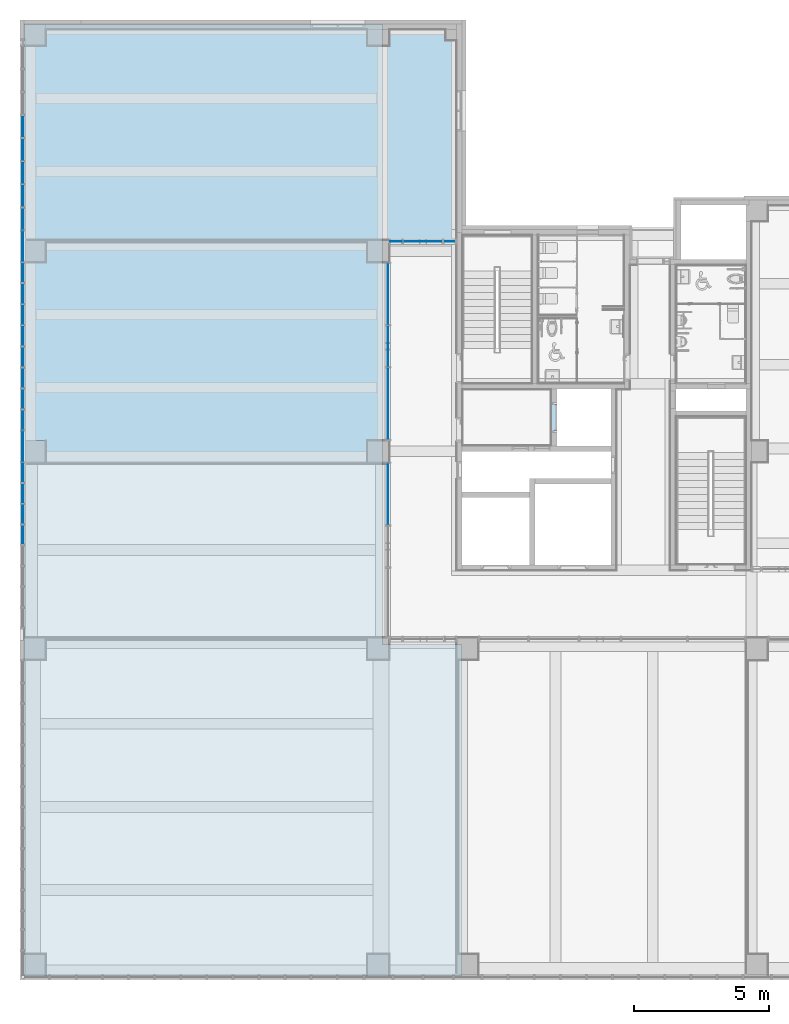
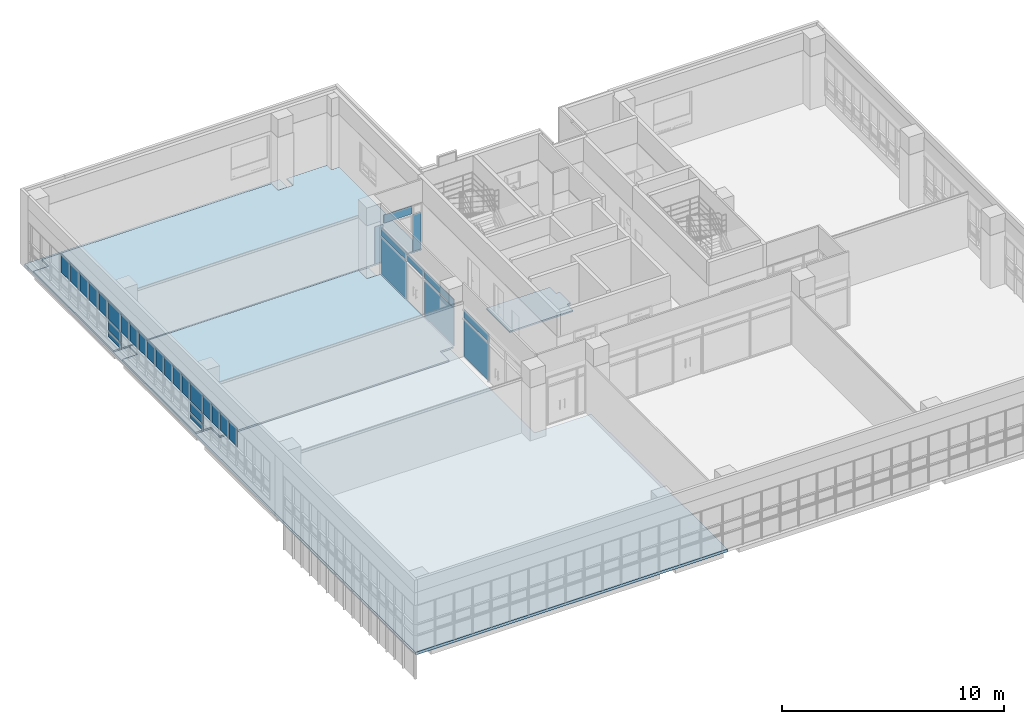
# One storey, part 28 of 81: 33 plates, 4 slabs, 4 elements without a shape of their own.
"""IFC2X3 building model written with IfcOpenShell, lengths in millimetres."""

import ifcopenshell
import ifcopenshell.guid

model = None  # the IFC model being written
_history = None  # IfcOwnerHistory: only IFC2X3 demands one
_inside = {}  # id of a spatial element -> (the spatial element, [elements in it])
_under = {}  # id of a project, library or spatial element -> (it, [spatial elements below it])
_declared = {}  # id of a project -> (the project, [libraries it declares])
_typed = {}  # id of a type object -> (the type object, [elements of that type])
_made_of = {}  # id of a material, layer set ... -> (it, [elements and type objects made of it])


def new_model(schema):
    """Start an empty IFC model of exactly this schema.

    Asked for "IFC4X3", IfcOpenShell would pick the latest addendum, in which some entities
    have other attributes; the version numbers below select the first issue.
    IFC2X3 requires an IfcOwnerHistory on every rooted entity: one is made here for all.
    """
    global model, _history
    if schema == "IFC4X3":
        model = ifcopenshell.file(schema_version=(4, 3, 0, 0))
    else:
        model = ifcopenshell.file(schema=schema)
    _inside.clear()
    _under.clear()
    _declared.clear()
    _typed.clear()
    _made_of.clear()
    _history = None
    if model.schema == "IFC2X3":
        org = make("IfcOrganization", Name="unknown")
        user = make(
            "IfcPersonAndOrganization",
            ThePerson=make("IfcPerson", FamilyName="unknown"),
            TheOrganization=org,
        )
        app = make(
            "IfcApplication",
            ApplicationDeveloper=org,
            Version="unknown",
            ApplicationFullName="unknown",
            ApplicationIdentifier="unknown",
        )
        _history = make(
            "IfcOwnerHistory",
            OwningUser=user,
            OwningApplication=app,
            ChangeAction="ADDED",
            CreationDate=0,
        )
    return model


def make(cls, **values):
    """One entity of the class cls with the attributes given. An attribute that is None is left unset."""
    return model.create_entity(
        cls, **{name: value for name, value in values.items() if value is not None}
    )


def entity(cls, *values):
    """Any entity or typed value of the class cls, its attributes in the order of the schema. None: left unset."""
    e = model.create_entity(cls)
    for i, value in enumerate(values):
        if value is not None:
            e[i] = value
    return e


def rooted(cls, **values):
    """An entity with a GlobalId (a new one), such as an element, a storey or a relation."""
    return make(cls, GlobalId=ifcopenshell.guid.new(), OwnerHistory=_history, **values)


def si_unit(unit_type, name, prefix=None):
    """IfcSIUnit, for example si_unit("LENGTHUNIT", "METRE", prefix="MILLI")."""
    return make("IfcSIUnit", UnitType=unit_type, Prefix=prefix, Name=name)


def converted_unit(unit_type, name, factor, base, dimensions=None, offset=None):
    """IfcConversionBasedUnit, such as the inch: factor (a typed value) times the base unit."""
    return make(
        "IfcConversionBasedUnit"
        if offset is None
        else "IfcConversionBasedUnitWithOffset",
        ConversionOffset=offset,
        Dimensions=None
        if dimensions is None
        else entity("IfcDimensionalExponents", *dimensions),
        UnitType=unit_type,
        Name=name,
        ConversionFactor=make(
            "IfcMeasureWithUnit", ValueComponent=factor, UnitComponent=base
        ),
    )


def derived_unit(unit_type, elements):
    """IfcDerivedUnit: a product of units, each with its exponent."""
    return make(
        "IfcDerivedUnit",
        Elements=[
            make("IfcDerivedUnitElement", Unit=unit, Exponent=power)
            for unit, power in elements
        ],
        UnitType=unit_type,
    )


def assignment(units):
    """IfcUnitAssignment: the units of a project."""
    return None if units is None else make("IfcUnitAssignment", Units=units)


def point(xyz):
    """IfcCartesianPoint."""
    return None if xyz is None else make("IfcCartesianPoint", Coordinates=xyz)


def direction(xyz):
    """IfcDirection."""
    return None if xyz is None else make("IfcDirection", DirectionRatios=xyz)


def frame(location, z_axis=None, x_axis=None):
    """IfcAxis2Placement3D, a coordinate frame: its origin and axes. An axis left out is left unset."""
    return make(
        "IfcAxis2Placement3D",
        Location=point(location),
        Axis=direction(z_axis),
        RefDirection=direction(x_axis),
    )


def frame_2d(location, x_axis=None):
    """IfcAxis2Placement2D, a coordinate frame in the plane: its origin and x axis."""
    return make(
        "IfcAxis2Placement2D", Location=point(location), RefDirection=direction(x_axis)
    )


def origin():
    """The frame at (0, 0, 0) with its axes left unset."""
    return frame((0.0, 0.0, 0.0))


def origin_2d_with_axis():
    """The frame at (0, 0) in the plane with the x axis (1, 0) written out."""
    return frame_2d((0.0, 0.0), x_axis=(1.0, 0.0))


def place(relative_to, where):
    """IfcLocalPlacement: puts the frame where relative to a parent placement (None: the world)."""
    return make(
        "IfcLocalPlacement", PlacementRelTo=relative_to, RelativePlacement=where
    )


def context(
    kind, dimensions, precision=None, world=None, true_north=None, identifier=None
):
    """IfcGeometricRepresentationContext, for example the 3D "Model" context."""
    return make(
        "IfcGeometricRepresentationContext",
        ContextIdentifier=identifier,
        ContextType=kind,
        CoordinateSpaceDimension=dimensions,
        Precision=precision,
        WorldCoordinateSystem=world,
        TrueNorth=true_north,
    )


def subcontext(parent, identifier, kind, view, scale=None):
    """IfcGeometricRepresentationSubContext, for example "Body" below "Model"."""
    return make(
        "IfcGeometricRepresentationSubContext",
        ContextIdentifier=identifier,
        ContextType=kind,
        ParentContext=parent,
        TargetScale=scale,
        TargetView=view,
    )


def project(units=None, contexts=None):
    """IfcProject with its units and contexts."""
    return rooted(
        "IfcProject",
        Name="project",
        RepresentationContexts=contexts,
        UnitsInContext=assignment(units),
    )


def spatial(cls, under=None, at=None, **own):
    """A site, building, storey or space (cls), placed at a placement, below another one or the project."""
    s = rooted(cls, ObjectPlacement=at, **own)
    if under is not None:
        _under.setdefault(under.id(), (under, []))[1].append(s)
    return s


def polyline(points):
    """IfcPolyline through the points."""
    return make("IfcPolyline", Points=[point(p) for p in points])


def profile(cls, at=None, kind="AREA", **sizes):
    """A parametric profile (cls). Its sizes go by their IFC names, for example OverallWidth=200.0."""
    return make(cls, ProfileType=kind, Position=at, **sizes)


def rectangle(**sizes):
    """IfcRectangleProfileDef."""
    return profile("IfcRectangleProfileDef", **sizes)


def outline(outer, holes=None, kind="AREA"):
    """IfcArbitraryClosedProfileDef: a profile drawn as a closed curve; with holes, ...WithVoids."""
    if holes is None:
        return make("IfcArbitraryClosedProfileDef", ProfileType=kind, OuterCurve=outer)
    return make(
        "IfcArbitraryProfileDefWithVoids",
        ProfileType=kind,
        OuterCurve=outer,
        InnerCurves=holes,
    )


def extrude(swept, where, along, depth):
    """IfcExtrudedAreaSolid: the profile swept, set in the frame where, extruded along a direction by depth."""
    return make(
        "IfcExtrudedAreaSolid",
        SweptArea=swept,
        Position=where,
        ExtrudedDirection=direction(along),
        Depth=depth,
    )


def shape(context_of_items, identifier, shape_type, items):
    """IfcShapeRepresentation: the items that make up one representation, for example the "Body"."""
    return make(
        "IfcShapeRepresentation",
        ContextOfItems=context_of_items,
        RepresentationIdentifier=identifier,
        RepresentationType=shape_type,
        Items=items,
    )


def source(mapping_origin, context_of_items, identifier, shape_type, items):
    """IfcRepresentationMap: a shape defined once, which mapped items show again and again."""
    return make(
        "IfcRepresentationMap",
        MappingOrigin=mapping_origin,
        MappedRepresentation=shape(context_of_items, identifier, shape_type, items),
    )


def transform(
    local_origin,
    x_axis=None,
    y_axis=None,
    z_axis=None,
    scale=None,
    scale2=None,
    scale3=None,
    uniform=True,
):
    """IfcCartesianTransformationOperator3D, or its non-uniform kind. x_axis, y_axis, z_axis: its Axis1, 2, 3."""
    if uniform:
        return make(
            "IfcCartesianTransformationOperator3D",
            Axis1=direction(x_axis),
            Axis2=direction(y_axis),
            LocalOrigin=point(local_origin),
            Scale=scale,
            Axis3=direction(z_axis),
        )
    return make(
        "IfcCartesianTransformationOperator3DnonUniform",
        Axis1=direction(x_axis),
        Axis2=direction(y_axis),
        LocalOrigin=point(local_origin),
        Scale=scale,
        Axis3=direction(z_axis),
        Scale2=scale2,
        Scale3=scale3,
    )


def mapped(mapping_source, mapping_target):
    """IfcMappedItem: shows the shape of a source again, moved by a transform."""
    return make(
        "IfcMappedItem", MappingSource=mapping_source, MappingTarget=mapping_target
    )


def material(Name=None, Category=None):
    """IfcMaterial."""
    return make("IfcMaterial", Name=Name, Category=Category)


def layer(
    of_material, thickness, ventilated=None, Name=None, Category=None, Priority=None
):
    """IfcMaterialLayer: one layer of a wall or slab, of a material (None: an air gap)."""
    return make(
        "IfcMaterialLayer",
        Material=of_material,
        LayerThickness=thickness,
        IsVentilated=ventilated,
        Name=Name,
        Category=Category,
        Priority=Priority,
    )


def layer_set(layers, Name=None):
    """IfcMaterialLayerSet."""
    return make("IfcMaterialLayerSet", MaterialLayers=layers, LayerSetName=Name)


def layer_usage(for_layer_set, set_direction, sense, offset, extent=None):
    """IfcMaterialLayerSetUsage: how a layer set lies in its element."""
    return make(
        "IfcMaterialLayerSetUsage",
        ForLayerSet=for_layer_set,
        LayerSetDirection=set_direction,
        DirectionSense=sense,
        OffsetFromReferenceLine=offset,
        ReferenceExtent=extent,
    )


def made_of(thing, what):
    """Note that an element or type object is made of a material, layer set ...; save() writes the relation."""
    if what is not None:
        _made_of.setdefault(what.id(), (what, []))[1].append(thing)
    return thing


def type_object(cls, material=None, **own):
    """A type object (cls), such as IfcWallType, which elements share."""
    return made_of(rooted(cls, **own), material)


def type_shapes(of_type, sources):
    """Give a type object the sources (RepresentationMaps) that its elements show as mapped items."""
    of_type.RepresentationMaps = sources


def element(
    cls,
    number,
    at=None,
    inside=None,
    cuts=None,
    type_object=None,
    material=None,
    context=None,
    identifier="Body",
    shape_type=None,
    held_by="IfcProductDefinitionShape",
    body=None,
    shapes=None,
    **own,
):
    """One element of the class cls, such as IfcWall. Its Tag is "e" and its number.

    at: its placement. inside: the storey or other place that contains it. cuts: it is an
    opening in that element (IfcRelVoidsElement). A single representation is given by context,
    identifier, shape_type and body (its items); several are given by shapes. held_by: the class
    of the entity that holds the representations. save() writes the other relations.
    """
    e = rooted(cls, Tag="e%d" % number, ObjectPlacement=at, **own)
    if body is not None:
        shapes = [shape(context, identifier, shape_type, body)]
    if shapes is not None:
        e.Representation = make(held_by, Representations=shapes)
    if inside is not None:
        _inside.setdefault(inside.id(), (inside, []))[1].append(e)
    if cuts is not None:
        rooted(
            "IfcRelVoidsElement", RelatingBuildingElement=cuts, RelatedOpeningElement=e
        )
    if type_object is not None:
        _typed.setdefault(type_object.id(), (type_object, []))[1].append(e)
    return made_of(e, material)


def aggregate(whole, parts):
    """IfcRelAggregates: a whole, such as a stair, and the parts it consists of."""
    return rooted("IfcRelAggregates", RelatingObject=whole, RelatedObjects=parts)


def save(model, path):
    """Write the relations noted so far, then the file.

    IfcRelAggregates (storeys below a building ...), IfcRelContainedInSpatialStructure (elements
    in a storey), IfcRelDefinesByType, IfcRelAssociatesMaterial and IfcRelDeclares: one each for
    every whole, place, type object, material and project.
    """
    for whole, parts in _under.values():
        aggregate(whole, parts)
    for where, things in _inside.values():
        rooted(
            "IfcRelContainedInSpatialStructure",
            RelatedElements=things,
            RelatingStructure=where,
        )
    for kind, things in _typed.values():
        rooted("IfcRelDefinesByType", RelatedObjects=things, RelatingType=kind)
    for what, things in _made_of.values():
        rooted("IfcRelAssociatesMaterial", RelatedObjects=things, RelatingMaterial=what)
    for by, libraries in _declared.values():
        rooted("IfcRelDeclares", RelatingContext=by, RelatedDefinitions=libraries)
    model.write(path)


model = new_model("IFC2X3")

# Units and contexts
model_context = context("Model", 3, precision=0.01, world=origin(), true_north=direction((6.123031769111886e-17, 1.0)))
body_context = subcontext(model_context, "Body", "Model", "MODEL_VIEW")
ifc_project = project(units=[si_unit("LENGTHUNIT", "METRE", prefix="MILLI"), si_unit("AREAUNIT", "SQUARE_METRE"), si_unit("VOLUMEUNIT", "CUBIC_METRE"), converted_unit("PLANEANGLEUNIT", "DEGREE", entity("IfcRatioMeasure", 0.017453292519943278), si_unit("PLANEANGLEUNIT", "RADIAN"), dimensions=[0, 0, 0, 0, 0, 0, 0]), si_unit("MASSUNIT", "GRAM", prefix="KILO"), derived_unit("MASSDENSITYUNIT", [(si_unit("MASSUNIT", "GRAM", prefix="KILO"), 1), (si_unit("LENGTHUNIT", "METRE"), -3)]), derived_unit("MOMENTOFINERTIAUNIT", [(si_unit("LENGTHUNIT", "METRE"), 4)]), si_unit("TIMEUNIT", "SECOND"), si_unit("FREQUENCYUNIT", "HERTZ"), si_unit("THERMODYNAMICTEMPERATUREUNIT", "DEGREE_CELSIUS"), derived_unit("THERMALTRANSMITTANCEUNIT", [(si_unit("MASSUNIT", "GRAM", prefix="KILO"), 1), (si_unit("THERMODYNAMICTEMPERATUREUNIT", "KELVIN"), -1), (si_unit("TIMEUNIT", "SECOND"), -3)]), derived_unit("VOLUMETRICFLOWRATEUNIT", [(si_unit("LENGTHUNIT", "METRE"), 3), (si_unit("TIMEUNIT", "SECOND"), -1)]), derived_unit("MASSFLOWRATEUNIT", [(si_unit("MASSUNIT", "GRAM", prefix="KILO"), 1), (si_unit("TIMEUNIT", "SECOND"), -1)]), derived_unit("ROTATIONALFREQUENCYUNIT", [(si_unit("TIMEUNIT", "SECOND"), -1)]), si_unit("ELECTRICCURRENTUNIT", "AMPERE"), si_unit("ELECTRICVOLTAGEUNIT", "VOLT"), si_unit("POWERUNIT", "WATT"), si_unit("FORCEUNIT", "NEWTON", prefix="KILO"), si_unit("ILLUMINANCEUNIT", "LUX"), si_unit("LUMINOUSFLUXUNIT", "LUMEN"), si_unit("LUMINOUSINTENSITYUNIT", "CANDELA"), derived_unit("USERDEFINED", [(si_unit("MASSUNIT", "GRAM", prefix="KILO"), -1), (si_unit("LENGTHUNIT", "METRE"), -2), (si_unit("TIMEUNIT", "SECOND"), 3), (si_unit("LUMINOUSFLUXUNIT", "LUMEN"), 1)]), derived_unit("SOUNDPOWERUNIT", [(si_unit("MASSUNIT", "GRAM", prefix="KILO"), 1), (si_unit("LENGTHUNIT", "METRE"), 2), (si_unit("TIMEUNIT", "SECOND"), -3)]), derived_unit("SOUNDPRESSUREUNIT", [(si_unit("MASSUNIT", "GRAM", prefix="KILO"), 1), (si_unit("LENGTHUNIT", "METRE"), -1), (si_unit("TIMEUNIT", "SECOND"), -2)]), derived_unit("LINEARVELOCITYUNIT", [(si_unit("LENGTHUNIT", "METRE"), 1), (si_unit("TIMEUNIT", "SECOND"), -1)]), si_unit("PRESSUREUNIT", "PASCAL"), derived_unit("USERDEFINED", [(si_unit("LENGTHUNIT", "METRE"), -2), (si_unit("MASSUNIT", "GRAM", prefix="KILO"), 1), (si_unit("TIMEUNIT", "SECOND"), -2)]), derived_unit("LINEARFORCEUNIT", [(si_unit("MASSUNIT", "GRAM", prefix="KILO"), 1), (si_unit("LENGTHUNIT", "METRE"), 1), (si_unit("TIMEUNIT", "SECOND"), -2), (si_unit("LENGTHUNIT", "METRE"), -1)]), derived_unit("PLANARFORCEUNIT", [(si_unit("MASSUNIT", "GRAM", prefix="KILO"), 1), (si_unit("LENGTHUNIT", "METRE"), 1), (si_unit("TIMEUNIT", "SECOND"), -2), (si_unit("LENGTHUNIT", "METRE"), -2)])], contexts=[model_context])

# Site, building, storey
site_placement = place(None, frame((-14167.972527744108, -657.2125860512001, 0.0)))
site = spatial("IfcSite", under=ifc_project, at=site_placement, Name="Default", CompositionType="ELEMENT")
building_placement = place(site_placement, origin())
building = spatial("IfcBuilding", under=site, at=building_placement, Name="Sample Building", CompositionType="ELEMENT")
storey_placement = place(building_placement, frame((0.0, 0.0, 13400.0)))
storey = spatial("IfcBuildingStorey", under=building, at=storey_placement, Name="지상 4층", CompositionType="ELEMENT", Elevation=13400.00000000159)

# Slab
ifc_material_1 = material(Name="KBIMS-콘크리트")
ifc_layer_1 = layer(ifc_material_1, 150.0)
ifc_layer_set_1 = layer_set([ifc_layer_1], Name="바닥:SL111-철근콘크리트구조 바닥 150mm_S1")
ifc_layer_usage_1 = layer_usage(ifc_layer_set_1, "AXIS3", "POSITIVE", 0.0)
slab_type_1 = type_object("IfcSlabType", Name="바닥:SL111-철근콘크리트구조 바닥 150mm_S1", PredefinedType="FLOOR", material=ifc_layer_set_1)
slab_1_placement = place(storey_placement, origin())
element("IfcSlab", 1, at=slab_1_placement, inside=storey, type_object=slab_type_1, material=ifc_layer_usage_1, Name="바닥:SL111-철근콘크리트구조 바닥 150mm_S1", ObjectType="바닥:SL111-철근콘크리트구조 바닥 150mm_S1", PredefinedType="FLOOR", context=body_context, shape_type="SweptSolid", body=[
    extrude(outline(polyline([(-15816.666733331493, -9816.694598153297), (19383.333366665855, -9816.694598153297), (19383.333366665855, 3433.331560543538), (-3566.666633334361, 3433.3315605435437), (-3566.6666333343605, 6383.314094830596), (-15816.666733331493, 6383.314094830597), (-15816.666733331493, -9816.694598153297)])), frame((23884.649703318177, 16373.878928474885, 0.0), z_axis=(0.0, 0.0, -1.0), x_axis=(0.0, 1.0, 0.0)), (0.0, 0.0, 1.0), 150.00000000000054),
])

# Curtain wall, plates
curtain_wall_type = type_object("IfcCurtainWallType", Name="커튼월:CW112-스테인리스 스틸 커튼월", PredefinedType="NOTDEFINED")
curtain_wall_1_placement = place(storey_placement, frame((0.0, 0.0, -13400.0)))
curtain_wall_1 = element("IfcCurtainWall", 2, at=curtain_wall_1_placement, inside=storey, type_object=curtain_wall_type, Name="커튼월:CW112-스테인리스 스틸 커튼월", ObjectType="커튼월:CW112-스테인리스 스틸 커튼월")
ifc_material_2 = material(Name="KBIMS-로이유리(코팅)")
plate_type_1 = type_object("IfcPlateType", Name="CW300-THK24.Low-e coating glass:CW300-THK24.Low-e coating glass", PredefinedType="CURTAIN_PANEL", material=ifc_material_2)
shared_shape_1 = source(origin(), body_context, "Body", "SweptSolid", [
    extrude(rectangle(XDim=2265.0000000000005, YDim=24.000000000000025, at=origin_2d_with_axis()), frame((0.0, 0.0, 0.0), z_axis=(0.0, 0.0, 1.0), x_axis=(-1.0, 0.0, 0.0)), (0.0, 0.0, 1.0), 445.00000000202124),
])
type_shapes(plate_type_1, [shared_shape_1])
plate_1_placement = place(curtain_wall_1_placement, frame((27523.086972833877, 25774.712307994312, 15605.0), z_axis=(0.0, 0.0, 1.0), x_axis=(0.0, -1.0, 0.0)))
plate_1 = element("IfcPlate", 3, at=plate_1_placement, type_object=plate_type_1, material=ifc_material_2, Name="CW300-THK24.Low-e coating glass:CW300-THK24.Low-e coating glass", ObjectType="CW300-THK24.Low-e coating glass:CW300-THK24.Low-e coating glass", context=body_context, shape_type="MappedRepresentation", body=[
    mapped(shared_shape_1, transform((0.0, 0.0, 0.0), scale=1.0)),
])
plate_type_2 = type_object("IfcPlateType", Name="CW300-THK24.Low-e coating glass:CW300-THK24.Low-e coating glass", PredefinedType="CURTAIN_PANEL", material=ifc_material_2)
shared_shape_2 = source(origin(), body_context, "Body", "SweptSolid", [
    extrude(rectangle(XDim=1500.0000000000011, YDim=24.000000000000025, at=origin_2d_with_axis()), frame((0.0, 0.0, 0.0), z_axis=(0.0, 0.0, 1.0), x_axis=(-1.0, 0.0, 0.0)), (0.0, 0.0, 1.0), 445.00000000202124),
])
type_shapes(plate_type_2, [shared_shape_2])
plate_2_placement = place(curtain_wall_1_placement, frame((27523.086972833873, 23842.21230799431, 15605.0), z_axis=(0.0, 0.0, 1.0), x_axis=(0.0, -1.0, 0.0)))
plate_2 = element("IfcPlate", 4, at=plate_2_placement, type_object=plate_type_2, material=ifc_material_2, Name="CW300-THK24.Low-e coating glass:CW300-THK24.Low-e coating glass", ObjectType="CW300-THK24.Low-e coating glass:CW300-THK24.Low-e coating glass", context=body_context, shape_type="MappedRepresentation", body=[
    mapped(shared_shape_2, transform((0.0, 0.0, 0.0), scale=1.0)),
])
plate_type_3 = type_object("IfcPlateType", Name="CW300-THK24.Low-e coating glass:CW300-THK24.Low-e coating glass", PredefinedType="CURTAIN_PANEL", material=ifc_material_2)
shared_shape_3 = source(origin(), body_context, "Body", "SweptSolid", [
    extrude(rectangle(XDim=2634.9999999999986, YDim=24.000000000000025, at=origin_2d_with_axis()), frame((0.0, 0.0, 0.0), z_axis=(0.0, 0.0, 1.0), x_axis=(-1.0, 0.0, 0.0)), (0.0, 0.0, 1.0), 445.00000000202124),
])
type_shapes(plate_type_3, [shared_shape_3])
plate_3_placement = place(curtain_wall_1_placement, frame((27523.08697283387, 21724.712307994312, 15605.0), z_axis=(0.0, 0.0, 1.0), x_axis=(0.0, -1.0, 0.0)))
plate_3 = element("IfcPlate", 5, at=plate_3_placement, type_object=plate_type_3, material=ifc_material_2, Name="CW300-THK24.Low-e coating glass:CW300-THK24.Low-e coating glass", ObjectType="CW300-THK24.Low-e coating glass:CW300-THK24.Low-e coating glass", context=body_context, shape_type="MappedRepresentation", body=[
    mapped(shared_shape_3, transform((0.0, 0.0, 0.0), scale=1.0)),
])

curtain_wall_2_placement = place(storey_placement, frame((0.0, 0.0, -13400.0)))
curtain_wall_2 = element("IfcCurtainWall", 6, at=curtain_wall_2_placement, inside=storey, type_object=curtain_wall_type, Name="커튼월:CW112-스테인리스 스틸 커튼월", ObjectType="커튼월:CW112-스테인리스 스틸 커튼월")
plate_type_4 = type_object("IfcPlateType", Name="CW300-THK24.Low-e coating glass:CW300-THK24.Low-e coating glass", PredefinedType="CURTAIN_PANEL", material=ifc_material_2)
shared_shape_4 = source(origin(), body_context, "Body", "SweptSolid", [
    extrude(rectangle(XDim=2265.0349926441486, YDim=24.000000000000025, at=origin_2d_with_axis()), frame((0.0, 0.0, 0.0), z_axis=(0.0, 0.0, 1.0), x_axis=(-1.0, 0.0, 0.0)), (0.0, 0.0, 1.0), 2075.0000000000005),
])
type_shapes(plate_type_4, [shared_shape_4])
plate_4_placement = place(curtain_wall_2_placement, frame((27522.95510516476, 18374.69512071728, 13480.0), z_axis=(0.0, 0.0, 1.0), x_axis=(0.0, -1.0, 0.0)))
plate_4 = element("IfcPlate", 7, at=plate_4_placement, type_object=plate_type_4, material=ifc_material_2, Name="CW300-THK24.Low-e coating glass:CW300-THK24.Low-e coating glass", ObjectType="CW300-THK24.Low-e coating glass:CW300-THK24.Low-e coating glass", context=body_context, shape_type="MappedRepresentation", body=[
    mapped(shared_shape_4, transform((0.0, 0.0, 0.0), scale=1.0)),
])
plate_type_5 = type_object("IfcPlateType", Name="CW300-THK24.Low-e coating glass:CW300-THK24.Low-e coating glass", PredefinedType="CURTAIN_PANEL", material=ifc_material_2)
shared_shape_5 = source(origin(), body_context, "Body", "SweptSolid", [
    extrude(rectangle(XDim=2265.03499264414, YDim=24.000000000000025, at=origin_2d_with_axis()), frame((0.0, 0.0, 0.0), z_axis=(0.0, 0.0, 1.0), x_axis=(-1.0, 0.0, 0.0)), (0.0, 0.0, 1.0), 445.0000000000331),
])
type_shapes(plate_type_5, [shared_shape_5])
plate_5_placement = place(curtain_wall_2_placement, frame((27522.95510516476, 18374.69512071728, 15605.0), z_axis=(0.0, 0.0, 1.0), x_axis=(0.0, -1.0, 0.0)))
plate_5 = element("IfcPlate", 8, at=plate_5_placement, type_object=plate_type_5, material=ifc_material_2, Name="CW300-THK24.Low-e coating glass:CW300-THK24.Low-e coating glass", ObjectType="CW300-THK24.Low-e coating glass:CW300-THK24.Low-e coating glass", context=body_context, shape_type="MappedRepresentation", body=[
    mapped(shared_shape_5, transform((0.0, 0.0, 0.0), scale=1.0)),
])
aggregate(curtain_wall_2, [plate_4, plate_5])

curtain_wall_3_placement = place(storey_placement, frame((0.0, 0.0, -13400.0)))
curtain_wall_3 = element("IfcCurtainWall", 9, at=curtain_wall_3_placement, inside=storey, type_object=curtain_wall_type, Name="커튼월:CW112-스테인리스 스틸 커튼월", ObjectType="커튼월:CW112-스테인리스 스틸 커튼월")
plate_type_6 = type_object("IfcPlateType", Name="CW300-THK24.Low-e coating glass:CW300-THK24.Low-e coating glass", PredefinedType="CURTAIN_PANEL", material=ifc_material_2)
shared_shape_6 = source(origin(), body_context, "Body", "SweptSolid", [
    extrude(rectangle(XDim=1120.000000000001, YDim=24.000000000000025, at=origin_2d_with_axis()), frame((0.0, 0.0, 0.0), z_axis=(0.0, 0.0, 1.0), x_axis=(-1.0, 0.0, 0.0)), (0.0, 0.0, 1.0), 324.9999999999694),
])
type_shapes(plate_type_6, [shared_shape_6])
plate_6_placement = place(curtain_wall_3_placement, frame((14018.570555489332, 27540.81770709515, 14050.0), z_axis=(0.0, 0.0, 1.0), x_axis=(0.0, -1.0, 0.0)))
plate_6 = element("IfcPlate", 10, at=plate_6_placement, type_object=plate_type_6, material=ifc_material_2, Name="CW300-THK24.Low-e coating glass:CW300-THK24.Low-e coating glass", ObjectType="CW300-THK24.Low-e coating glass:CW300-THK24.Low-e coating glass", context=body_context, shape_type="MappedRepresentation", body=[
    mapped(shared_shape_6, transform((0.0, 0.0, 0.0), scale=1.0)),
])
plate_7_placement = place(curtain_wall_3_placement, frame((14018.570555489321, 20138.81770709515, 14050.0), z_axis=(0.0, 0.0, 1.0), x_axis=(0.0, -1.0, 0.0)))
plate_7 = element("IfcPlate", 11, at=plate_7_placement, type_object=plate_type_6, material=ifc_material_2, Name="CW300-THK24.Low-e coating glass:CW300-THK24.Low-e coating glass", ObjectType="CW300-THK24.Low-e coating glass:CW300-THK24.Low-e coating glass", context=body_context, shape_type="MappedRepresentation", body=[
    mapped(shared_shape_6, transform((0.0, 0.0, 0.0), scale=1.0)),
])
plate_type_7 = type_object("IfcPlateType", Name="CW300-THK24.Low-e coating glass:CW300-THK24.Low-e coating glass", PredefinedType="CURTAIN_PANEL", material=ifc_material_2)
shared_shape_7 = source(origin(), body_context, "Body", "SweptSolid", [
    extrude(rectangle(XDim=1120.000000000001, YDim=24.000000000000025, at=origin_2d_with_axis()), frame((0.0, 0.0, 0.0), z_axis=(0.0, 0.0, 1.0), x_axis=(-1.0, 0.0, 0.0)), (0.0, 0.0, 1.0), 549.9999999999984),
])
type_shapes(plate_type_7, [shared_shape_7])
plate_8_placement = place(curtain_wall_3_placement, frame((14018.570555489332, 27540.81770709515, 14425.0), z_axis=(0.0, 0.0, 1.0), x_axis=(0.0, -1.0, 0.0)))
plate_8 = element("IfcPlate", 12, at=plate_8_placement, type_object=plate_type_7, material=ifc_material_2, Name="CW300-THK24.Low-e coating glass:CW300-THK24.Low-e coating glass", ObjectType="CW300-THK24.Low-e coating glass:CW300-THK24.Low-e coating glass", context=body_context, shape_type="MappedRepresentation", body=[
    mapped(shared_shape_7, transform((0.0, 0.0, 0.0), scale=1.0)),
])
plate_9_placement = place(curtain_wall_3_placement, frame((14018.570555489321, 20138.81770709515, 14425.0), z_axis=(0.0, 0.0, 1.0), x_axis=(0.0, -1.0, 0.0)))
plate_9 = element("IfcPlate", 13, at=plate_9_placement, type_object=plate_type_7, material=ifc_material_2, Name="CW300-THK24.Low-e coating glass:CW300-THK24.Low-e coating glass", ObjectType="CW300-THK24.Low-e coating glass:CW300-THK24.Low-e coating glass", context=body_context, shape_type="MappedRepresentation", body=[
    mapped(shared_shape_7, transform((0.0, 0.0, 0.0), scale=1.0)),
])
plate_type_8 = type_object("IfcPlateType", Name="CW300-THK24.Low-e coating glass:CW300-THK24.Low-e coating glass", PredefinedType="CURTAIN_PANEL", material=ifc_material_2)
shared_shape_8 = source(origin(), body_context, "Body", "SweptSolid", [
    extrude(rectangle(XDim=803.5000000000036, YDim=24.000000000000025, at=origin_2d_with_axis()), frame((0.0, 0.0, 0.0), z_axis=(0.0, 0.0, 1.0), x_axis=(-1.0, 0.0, 0.0)), (0.0, 0.0, 1.0), 1024.9999999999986),
])
type_shapes(plate_type_8, [shared_shape_8])
plate_10_placement = place(curtain_wall_3_placement, frame((14018.570555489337, 31966.56770709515, 15025.0), z_axis=(0.0, 0.0, 1.0), x_axis=(0.0, -1.0, 0.0)))
plate_10 = element("IfcPlate", 14, at=plate_10_placement, type_object=plate_type_8, material=ifc_material_2, Name="CW300-THK24.Low-e coating glass:CW300-THK24.Low-e coating glass", ObjectType="CW300-THK24.Low-e coating glass:CW300-THK24.Low-e coating glass", context=body_context, shape_type="MappedRepresentation", body=[
    mapped(shared_shape_8, transform((0.0, 0.0, 0.0), scale=1.0)),
])
plate_11_placement = place(curtain_wall_3_placement, frame((14018.570555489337, 31113.067707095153, 15025.0), z_axis=(0.0, 0.0, 1.0), x_axis=(0.0, -1.0, 0.0)))
plate_11 = element("IfcPlate", 15, at=plate_11_placement, type_object=plate_type_8, material=ifc_material_2, Name="CW300-THK24.Low-e coating glass:CW300-THK24.Low-e coating glass", ObjectType="CW300-THK24.Low-e coating glass:CW300-THK24.Low-e coating glass", context=body_context, shape_type="MappedRepresentation", body=[
    mapped(shared_shape_8, transform((0.0, 0.0, 0.0), scale=1.0)),
])
plate_12_placement = place(curtain_wall_3_placement, frame((14018.570555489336, 30259.56770709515, 15025.0), z_axis=(0.0, 0.0, 1.0), x_axis=(0.0, -1.0, 0.0)))
plate_12 = element("IfcPlate", 16, at=plate_12_placement, type_object=plate_type_8, material=ifc_material_2, Name="CW300-THK24.Low-e coating glass:CW300-THK24.Low-e coating glass", ObjectType="CW300-THK24.Low-e coating glass:CW300-THK24.Low-e coating glass", context=body_context, shape_type="MappedRepresentation", body=[
    mapped(shared_shape_8, transform((0.0, 0.0, 0.0), scale=1.0)),
])
plate_13_placement = place(curtain_wall_3_placement, frame((14018.570555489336, 29406.067707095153, 15025.0), z_axis=(0.0, 0.0, 1.0), x_axis=(0.0, -1.0, 0.0)))
plate_13 = element("IfcPlate", 17, at=plate_13_placement, type_object=plate_type_8, material=ifc_material_2, Name="CW300-THK24.Low-e coating glass:CW300-THK24.Low-e coating glass", ObjectType="CW300-THK24.Low-e coating glass:CW300-THK24.Low-e coating glass", context=body_context, shape_type="MappedRepresentation", body=[
    mapped(shared_shape_8, transform((0.0, 0.0, 0.0), scale=1.0)),
])
plate_14_placement = place(curtain_wall_3_placement, frame((14018.570555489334, 28552.567707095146, 15025.0), z_axis=(0.0, 0.0, 1.0), x_axis=(0.0, -1.0, 0.0)))
plate_14 = element("IfcPlate", 18, at=plate_14_placement, type_object=plate_type_8, material=ifc_material_2, Name="CW300-THK24.Low-e coating glass:CW300-THK24.Low-e coating glass", ObjectType="CW300-THK24.Low-e coating glass:CW300-THK24.Low-e coating glass", context=body_context, shape_type="MappedRepresentation", body=[
    mapped(shared_shape_8, transform((0.0, 0.0, 0.0), scale=1.0)),
])
plate_type_9 = type_object("IfcPlateType", Name="CW300-THK24.Low-e coating glass:CW300-THK24.Low-e coating glass", PredefinedType="CURTAIN_PANEL", material=ifc_material_2)
shared_shape_9 = source(origin(), body_context, "Body", "SweptSolid", [
    extrude(rectangle(XDim=1120.000000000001, YDim=24.000000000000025, at=origin_2d_with_axis()), frame((0.0, 0.0, 0.0), z_axis=(0.0, 0.0, 1.0), x_axis=(-1.0, 0.0, 0.0)), (0.0, 0.0, 1.0), 1024.9999999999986),
])
type_shapes(plate_type_9, [shared_shape_9])
plate_15_placement = place(curtain_wall_3_placement, frame((14018.570555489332, 27540.81770709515, 15025.0), z_axis=(0.0, 0.0, 1.0), x_axis=(0.0, -1.0, 0.0)))
plate_15 = element("IfcPlate", 19, at=plate_15_placement, type_object=plate_type_9, material=ifc_material_2, Name="CW300-THK24.Low-e coating glass:CW300-THK24.Low-e coating glass", ObjectType="CW300-THK24.Low-e coating glass:CW300-THK24.Low-e coating glass", context=body_context, shape_type="MappedRepresentation", body=[
    mapped(shared_shape_9, transform((0.0, 0.0, 0.0), scale=1.0)),
])
plate_16_placement = place(curtain_wall_3_placement, frame((14018.570555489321, 20138.817707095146, 15025.0), z_axis=(0.0, 0.0, 1.0), x_axis=(0.0, -1.0, 0.0)))
plate_16 = element("IfcPlate", 20, at=plate_16_placement, type_object=plate_type_9, material=ifc_material_2, Name="CW300-THK24.Low-e coating glass:CW300-THK24.Low-e coating glass", ObjectType="CW300-THK24.Low-e coating glass:CW300-THK24.Low-e coating glass", context=body_context, shape_type="MappedRepresentation", body=[
    mapped(shared_shape_9, transform((0.0, 0.0, 0.0), scale=1.0)),
])
plate_type_10 = type_object("IfcPlateType", Name="CW300-THK24.Low-e coating glass:CW300-THK24.Low-e coating glass", PredefinedType="CURTAIN_PANEL", material=ifc_material_2)
shared_shape_10 = source(origin(), body_context, "Body", "SweptSolid", [
    extrude(rectangle(XDim=729.0000000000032, YDim=24.000000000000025, at=origin_2d_with_axis()), frame((0.0, 0.0, 0.0), z_axis=(0.0, 0.0, 1.0), x_axis=(-1.0, 0.0, 0.0)), (0.0, 0.0, 1.0), 1024.9999999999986),
])
type_shapes(plate_type_10, [shared_shape_10])
plate_17_placement = place(curtain_wall_3_placement, frame((14018.57055548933, 26566.317707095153, 15025.0), z_axis=(0.0, 0.0, 1.0), x_axis=(0.0, -1.0, 0.0)))
plate_17 = element("IfcPlate", 21, at=plate_17_placement, type_object=plate_type_10, material=ifc_material_2, Name="CW300-THK24.Low-e coating glass:CW300-THK24.Low-e coating glass", ObjectType="CW300-THK24.Low-e coating glass:CW300-THK24.Low-e coating glass", context=body_context, shape_type="MappedRepresentation", body=[
    mapped(shared_shape_10, transform((0.0, 0.0, 0.0), scale=1.0)),
])
plate_18_placement = place(curtain_wall_3_placement, frame((14018.57055548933, 25787.31770709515, 15025.0), z_axis=(0.0, 0.0, 1.0), x_axis=(0.0, -1.0, 0.0)))
plate_18 = element("IfcPlate", 22, at=plate_18_placement, type_object=plate_type_10, material=ifc_material_2, Name="CW300-THK24.Low-e coating glass:CW300-THK24.Low-e coating glass", ObjectType="CW300-THK24.Low-e coating glass:CW300-THK24.Low-e coating glass", context=body_context, shape_type="MappedRepresentation", body=[
    mapped(shared_shape_10, transform((0.0, 0.0, 0.0), scale=1.0)),
])
plate_19_placement = place(curtain_wall_3_placement, frame((14018.570555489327, 25008.31770709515, 15025.0), z_axis=(0.0, 0.0, 1.0), x_axis=(0.0, -1.0, 0.0)))
plate_19 = element("IfcPlate", 23, at=plate_19_placement, type_object=plate_type_10, material=ifc_material_2, Name="CW300-THK24.Low-e coating glass:CW300-THK24.Low-e coating glass", ObjectType="CW300-THK24.Low-e coating glass:CW300-THK24.Low-e coating glass", context=body_context, shape_type="MappedRepresentation", body=[
    mapped(shared_shape_10, transform((0.0, 0.0, 0.0), scale=1.0)),
])
plate_20_placement = place(curtain_wall_3_placement, frame((14018.570555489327, 24229.317707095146, 15025.0), z_axis=(0.0, 0.0, 1.0), x_axis=(0.0, -1.0, 0.0)))
plate_20 = element("IfcPlate", 24, at=plate_20_placement, type_object=plate_type_10, material=ifc_material_2, Name="CW300-THK24.Low-e coating glass:CW300-THK24.Low-e coating glass", ObjectType="CW300-THK24.Low-e coating glass:CW300-THK24.Low-e coating glass", context=body_context, shape_type="MappedRepresentation", body=[
    mapped(shared_shape_10, transform((0.0, 0.0, 0.0), scale=1.0)),
])
plate_21_placement = place(curtain_wall_3_placement, frame((14018.570555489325, 23450.31770709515, 15025.0), z_axis=(0.0, 0.0, 1.0), x_axis=(0.0, -1.0, 0.0)))
plate_21 = element("IfcPlate", 25, at=plate_21_placement, type_object=plate_type_10, material=ifc_material_2, Name="CW300-THK24.Low-e coating glass:CW300-THK24.Low-e coating glass", ObjectType="CW300-THK24.Low-e coating glass:CW300-THK24.Low-e coating glass", context=body_context, shape_type="MappedRepresentation", body=[
    mapped(shared_shape_10, transform((0.0, 0.0, 0.0), scale=1.0)),
])
plate_22_placement = place(curtain_wall_3_placement, frame((14018.570555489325, 22671.317707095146, 15025.0), z_axis=(0.0, 0.0, 1.0), x_axis=(0.0, -1.0, 0.0)))
plate_22 = element("IfcPlate", 26, at=plate_22_placement, type_object=plate_type_10, material=ifc_material_2, Name="CW300-THK24.Low-e coating glass:CW300-THK24.Low-e coating glass", ObjectType="CW300-THK24.Low-e coating glass:CW300-THK24.Low-e coating glass", context=body_context, shape_type="MappedRepresentation", body=[
    mapped(shared_shape_10, transform((0.0, 0.0, 0.0), scale=1.0)),
])
plate_23_placement = place(curtain_wall_3_placement, frame((14018.570555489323, 21892.31770709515, 15025.0), z_axis=(0.0, 0.0, 1.0), x_axis=(0.0, -1.0, 0.0)))
plate_23 = element("IfcPlate", 27, at=plate_23_placement, type_object=plate_type_10, material=ifc_material_2, Name="CW300-THK24.Low-e coating glass:CW300-THK24.Low-e coating glass", ObjectType="CW300-THK24.Low-e coating glass:CW300-THK24.Low-e coating glass", context=body_context, shape_type="MappedRepresentation", body=[
    mapped(shared_shape_10, transform((0.0, 0.0, 0.0), scale=1.0)),
])
plate_24_placement = place(curtain_wall_3_placement, frame((14018.570555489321, 21113.31770709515, 15025.0), z_axis=(0.0, 0.0, 1.0), x_axis=(0.0, -1.0, 0.0)))
plate_24 = element("IfcPlate", 28, at=plate_24_placement, type_object=plate_type_10, material=ifc_material_2, Name="CW300-THK24.Low-e coating glass:CW300-THK24.Low-e coating glass", ObjectType="CW300-THK24.Low-e coating glass:CW300-THK24.Low-e coating glass", context=body_context, shape_type="MappedRepresentation", body=[
    mapped(shared_shape_10, transform((0.0, 0.0, 0.0), scale=1.0)),
])
plate_type_11 = type_object("IfcPlateType", Name="CW300-THK24.Low-e coating glass:CW300-THK24.Low-e coating glass", PredefinedType="CURTAIN_PANEL", material=ifc_material_2)
shared_shape_11 = source(origin(), body_context, "Body", "SweptSolid", [
    extrude(rectangle(XDim=716.4999999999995, YDim=24.000000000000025, at=origin_2d_with_axis()), frame((0.0, 0.0, 0.0), z_axis=(0.0, 0.0, 1.0), x_axis=(-1.0, 0.0, 0.0)), (0.0, 0.0, 1.0), 1024.9999999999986),
])
type_shapes(plate_type_11, [shared_shape_11])
plate_25_placement = place(curtain_wall_3_placement, frame((14018.57055548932, 19170.56770709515, 15025.0), z_axis=(0.0, 0.0, 1.0), x_axis=(0.0, -1.0, 0.0)))
plate_25 = element("IfcPlate", 29, at=plate_25_placement, type_object=plate_type_11, material=ifc_material_2, Name="CW300-THK24.Low-e coating glass:CW300-THK24.Low-e coating glass", ObjectType="CW300-THK24.Low-e coating glass:CW300-THK24.Low-e coating glass", context=body_context, shape_type="MappedRepresentation", body=[
    mapped(shared_shape_11, transform((0.0, 0.0, 0.0), scale=1.0)),
])
plate_26_placement = place(curtain_wall_3_placement, frame((14018.57055548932, 18404.06770709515, 15025.0), z_axis=(0.0, 0.0, 1.0), x_axis=(0.0, -1.0, 0.0)))
plate_26 = element("IfcPlate", 30, at=plate_26_placement, type_object=plate_type_11, material=ifc_material_2, Name="CW300-THK24.Low-e coating glass:CW300-THK24.Low-e coating glass", ObjectType="CW300-THK24.Low-e coating glass:CW300-THK24.Low-e coating glass", context=body_context, shape_type="MappedRepresentation", body=[
    mapped(shared_shape_11, transform((0.0, 0.0, 0.0), scale=1.0)),
])
plate_27_placement = place(curtain_wall_3_placement, frame((14018.570555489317, 17637.56770709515, 15025.0), z_axis=(0.0, 0.0, 1.0), x_axis=(0.0, -1.0, 0.0)))
plate_27 = element("IfcPlate", 31, at=plate_27_placement, type_object=plate_type_11, material=ifc_material_2, Name="CW300-THK24.Low-e coating glass:CW300-THK24.Low-e coating glass", ObjectType="CW300-THK24.Low-e coating glass:CW300-THK24.Low-e coating glass", context=body_context, shape_type="MappedRepresentation", body=[
    mapped(shared_shape_11, transform((0.0, 0.0, 0.0), scale=1.0)),
])
plate_28_placement = place(curtain_wall_3_placement, frame((14018.570555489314, 16871.06770709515, 15025.0), z_axis=(0.0, 0.0, 1.0), x_axis=(0.0, -1.0, 0.0)))
plate_28 = element("IfcPlate", 32, at=plate_28_placement, type_object=plate_type_11, material=ifc_material_2, Name="CW300-THK24.Low-e coating glass:CW300-THK24.Low-e coating glass", ObjectType="CW300-THK24.Low-e coating glass:CW300-THK24.Low-e coating glass", context=body_context, shape_type="MappedRepresentation", body=[
    mapped(shared_shape_11, transform((0.0, 0.0, 0.0), scale=1.0)),
])
aggregate(curtain_wall_3, [plate_6, plate_7, plate_8, plate_9, plate_10, plate_11, plate_12, plate_13, plate_14, plate_15, plate_17, plate_18, plate_19, plate_20, plate_21, plate_22, plate_23, plate_24, plate_16, plate_25, plate_26, plate_27, plate_28])

curtain_wall_4_placement = place(storey_placement, frame((0.0, 0.0, -13400.0)))
curtain_wall_4 = element("IfcCurtainWall", 33, at=curtain_wall_4_placement, inside=storey, type_object=curtain_wall_type, Name="커튼월:CW112-스테인리스 스틸 커튼월", ObjectType="커튼월:CW112-스테인리스 스틸 커튼월")
plate_type_12 = type_object("IfcPlateType", Name="CW300-THK24.Low-e coating glass:CW300-THK24.Low-e coating glass", PredefinedType="CURTAIN_PANEL", material=ifc_material_2)
shared_shape_12 = source(origin(), body_context, "Body", "SweptSolid", [
    extrude(rectangle(XDim=426.8727559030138, YDim=24.000000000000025, at=origin_2d_with_axis()), frame((0.0, 0.0, 0.0), z_axis=(0.0, 0.0, 1.0), x_axis=(-1.0, 0.0, 0.0)), (0.0, 0.0, 1.0), 2025.000000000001),
])
type_shapes(plate_type_12, [shared_shape_12])
plate_29_placement = place(curtain_wall_4_placement, frame((29804.527383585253, 27712.17793519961, 13530.0), z_axis=(0.0, 0.0, 1.0), x_axis=(-1.0, 0.0, 0.0)))
plate_29 = element("IfcPlate", 34, at=plate_29_placement, type_object=plate_type_12, material=ifc_material_2, Name="CW300-THK24.Low-e coating glass:CW300-THK24.Low-e coating glass", ObjectType="CW300-THK24.Low-e coating glass:CW300-THK24.Low-e coating glass", context=body_context, shape_type="MappedRepresentation", body=[
    mapped(shared_shape_12, transform((0.0, 0.0, 0.0), scale=1.0)),
])
plate_type_13 = type_object("IfcPlateType", Name="CW300-THK24.Low-e coating glass:CW300-THK24.Low-e coating glass", PredefinedType="CURTAIN_PANEL", material=ifc_material_2)
shared_shape_13 = source(origin(), body_context, "Body", "SweptSolid", [
    extrude(rectangle(XDim=423.1272440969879, YDim=24.000000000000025, at=origin_2d_with_axis()), frame((0.0, 0.0, 0.0), z_axis=(0.0, 0.0, 1.0), x_axis=(-1.0, 0.0, 0.0)), (0.0, 0.0, 1.0), 2025.000000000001),
])
type_shapes(plate_type_13, [shared_shape_13])
plate_30_placement = place(curtain_wall_4_placement, frame((27829.52738358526, 27712.177935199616, 13530.0), z_axis=(0.0, 0.0, 1.0), x_axis=(-1.0, 0.0, 0.0)))
plate_30 = element("IfcPlate", 35, at=plate_30_placement, type_object=plate_type_13, material=ifc_material_2, Name="CW300-THK24.Low-e coating glass:CW300-THK24.Low-e coating glass", ObjectType="CW300-THK24.Low-e coating glass:CW300-THK24.Low-e coating glass", context=body_context, shape_type="MappedRepresentation", body=[
    mapped(shared_shape_13, transform((0.0, 0.0, 0.0), scale=1.0)),
])
plate_type_14 = type_object("IfcPlateType", Name="CW300-THK24.Low-e coating glass:CW300-THK24.Low-e coating glass", PredefinedType="CURTAIN_PANEL", material=ifc_material_2)
shared_shape_14 = source(origin(), body_context, "Body", "SweptSolid", [
    extrude(rectangle(XDim=1449.9999999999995, YDim=24.000000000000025, at=origin_2d_with_axis()), frame((0.0, 0.0, 0.0), z_axis=(0.0, 0.0, 1.0), x_axis=(-1.0, 0.0, 0.0)), (0.0, 0.0, 1.0), 444.9999999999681),
])
type_shapes(plate_type_14, [shared_shape_14])
plate_31_placement = place(curtain_wall_4_placement, frame((28816.09100563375, 27712.177935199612, 15605.0), z_axis=(0.0, 0.0, 1.0), x_axis=(-1.0, 0.0, 0.0)))
plate_31 = element("IfcPlate", 36, at=plate_31_placement, type_object=plate_type_14, material=ifc_material_2, Name="CW300-THK24.Low-e coating glass:CW300-THK24.Low-e coating glass", ObjectType="CW300-THK24.Low-e coating glass:CW300-THK24.Low-e coating glass", context=body_context, shape_type="MappedRepresentation", body=[
    mapped(shared_shape_14, transform((0.0, 0.0, 0.0), scale=1.0)),
])
aggregate(curtain_wall_4, [plate_29, plate_30, plate_31])

# Plate
plate_type_15 = type_object("IfcPlateType", Name="CW300-THK24.Low-e coating glass:CW300-THK24.Low-e coating glass", PredefinedType="CURTAIN_PANEL", material=ifc_material_2)
shared_shape_15 = source(origin(), body_context, "Body", "SweptSolid", [
    extrude(rectangle(XDim=2265.0000000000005, YDim=24.000000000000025, at=origin_2d_with_axis()), frame((0.0, 0.0, 0.0), z_axis=(0.0, 0.0, 1.0), x_axis=(-1.0, 0.0, 0.0)), (0.0, 0.0, 1.0), 2075.0000000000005),
])
type_shapes(plate_type_15, [shared_shape_15])
plate_32_placement = place(curtain_wall_1_placement, frame((27523.086972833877, 25774.712307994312, 13480.0), z_axis=(0.0, 0.0, 1.0), x_axis=(0.0, -1.0, 0.0)))
plate_32 = element("IfcPlate", 37, at=plate_32_placement, type_object=plate_type_15, material=ifc_material_2, Name="CW300-THK24.Low-e coating glass:CW300-THK24.Low-e coating glass", ObjectType="CW300-THK24.Low-e coating glass:CW300-THK24.Low-e coating glass", context=body_context, shape_type="MappedRepresentation", body=[
    mapped(shared_shape_15, transform((0.0, 0.0, 0.0), scale=1.0)),
])

plate_type_16 = type_object("IfcPlateType", Name="CW300-THK24.Low-e coating glass:CW300-THK24.Low-e coating glass", PredefinedType="CURTAIN_PANEL", material=ifc_material_2)
shared_shape_16 = source(origin(), body_context, "Body", "SweptSolid", [
    extrude(rectangle(XDim=2634.9999999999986, YDim=24.000000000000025, at=origin_2d_with_axis()), frame((0.0, 0.0, 0.0), z_axis=(0.0, 0.0, 1.0), x_axis=(-1.0, 0.0, 0.0)), (0.0, 0.0, 1.0), 2075.0000000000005),
])
type_shapes(plate_type_16, [shared_shape_16])
plate_33_placement = place(curtain_wall_1_placement, frame((27523.08697283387, 21724.712307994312, 13480.0), z_axis=(0.0, 0.0, 1.0), x_axis=(0.0, -1.0, 0.0)))
plate_33 = element("IfcPlate", 38, at=plate_33_placement, type_object=plate_type_16, material=ifc_material_2, Name="CW300-THK24.Low-e coating glass:CW300-THK24.Low-e coating glass", ObjectType="CW300-THK24.Low-e coating glass:CW300-THK24.Low-e coating glass", context=body_context, shape_type="MappedRepresentation", body=[
    mapped(shared_shape_16, transform((0.0, 0.0, 0.0), scale=1.0)),
])

aggregate(curtain_wall_1, [plate_32, plate_33, plate_1, plate_2, plate_3])

# Slabs
ifc_material_3 = material(Name="SL341-테라조 바닥 (바탕48mm, 마감32mm)")
ifc_layer_2 = layer(ifc_material_3, 80.0)
ifc_layer_set_2 = layer_set([ifc_layer_2], Name="바닥:A1-14-06B-테라조타일 (80mm)")
ifc_layer_usage_2 = layer_usage(ifc_layer_set_2, "AXIS3", "POSITIVE", 0.0)
slab_type_2 = type_object("IfcSlabType", Name="바닥:A1-14-06B-테라조타일 (80mm)", PredefinedType="FLOOR", material=ifc_layer_set_2)
slab_2_placement = place(storey_placement, origin())
element("IfcSlab", 39, at=slab_2_placement, inside=storey, type_object=slab_type_2, material=ifc_layer_usage_2, Name="바닥:A1-14-06B-테라조타일 (80mm)", ObjectType="바닥:A1-14-06B-테라조타일 (80mm)", PredefinedType="FLOOR", context=body_context, shape_type="SweptSolid", body=[
    extrude(outline(polyline([(-6233.333319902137, -9766.663781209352), (966.6666526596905, -9766.663781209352), (966.6666526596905, -8966.663781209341), (1566.6666672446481, -8966.663781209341), (1566.6666672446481, 2933.3362554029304), (966.6666526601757, 2933.336255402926), (966.6666526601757, 3733.3362554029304), (1566.6666672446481, 3733.3362554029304), (1566.6666672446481, 5833.327525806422), (1166.6666800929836, 5833.327525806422), (1166.6666800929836, 6233.32752580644), (-6233.333319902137, 6233.32752580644), (-6233.333319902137, -9766.663781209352)])), frame((23834.636235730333, 33990.54562789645, 80.0), z_axis=(0.0, 0.0, -1.0), x_axis=(0.0, 1.0, 0.0)), (0.0, 0.0, 1.0), 79.99999999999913),
])
ifc_material_4 = material(Name="SL312-화강석물갈기 바닥 (바탕30mm, 마감30mm)")
ifc_layer_3 = layer(ifc_material_4, 80.0)
ifc_layer_set_3 = layer_set([ifc_layer_3], Name="바닥:A1-15-01B-화강석(물갈기) (80mm)")
ifc_layer_usage_3 = layer_usage(ifc_layer_set_3, "AXIS3", "POSITIVE", 0.0)
slab_type_3 = type_object("IfcSlabType", Name="바닥:A1-15-01B-화강석(물갈기) (80mm)", PredefinedType="FLOOR", material=ifc_layer_set_3)
slab_3_placement = place(storey_placement, origin())
element("IfcSlab", 40, at=slab_3_placement, inside=storey, type_object=slab_type_3, material=ifc_layer_usage_3, Name="바닥:A1-15-01B-화강석(물갈기) (80mm)", ObjectType="바닥:A1-15-01B-화강석(물갈기) (80mm)", PredefinedType="FLOOR", context=body_context, shape_type="SweptSolid", body=[
    extrude(outline(polyline([(-1050.0, -2523.6215396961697), (1050.0, -2523.6215396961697), (1050.0, 774.540513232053), (507.3633281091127, 774.540513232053), (479.7770683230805, 974.5405132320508), (-479.7770683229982, 974.5405132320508), (-507.36332810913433, 774.540513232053), (-1050.0, 774.540513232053), (-1050.0, -2523.6215396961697)])), frame((32791.58530123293, 21207.212309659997, 80.0), z_axis=(0.0, 0.0, -1.0), x_axis=(0.0, 1.0, 0.0)), (0.0, 0.0, 1.0), 79.99999999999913),
])
ifc_layer_usage_4 = layer_usage(ifc_layer_set_2, "AXIS3", "POSITIVE", 0.0)
slab_type_4 = type_object("IfcSlabType", Name="바닥:A1-14-06B-테라조타일 (80mm)", PredefinedType="FLOOR", material=ifc_layer_set_2)
slab_4_placement = place(storey_placement, origin())
element("IfcSlab", 41, at=slab_4_placement, inside=storey, type_object=slab_type_4, material=ifc_layer_usage_4, Name="바닥:A1-14-06B-테라조타일 (80mm)", ObjectType="바닥:A1-14-06B-테라조타일 (80mm)", PredefinedType="FLOOR", context=body_context, shape_type="SweptSolid", body=[
    extrude(outline(polyline([(-3289.5834311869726, -6735.019098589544), (3310.4165688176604, -6735.019098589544), (3310.4165688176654, -5935.019098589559), (4047.916846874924, -5935.0190985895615), (4047.9168468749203, 5964.980938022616), (3310.4165688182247, 5964.980938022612), (3310.4165688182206, 6675.095419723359), (-3289.5834311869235, 6675.095419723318), (-3289.583431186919, 5964.980938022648), (-4089.5831221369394, 5964.980938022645), (-4089.583122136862, -5935.01909858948), (-3289.5834311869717, -5935.0190985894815), (-3289.5834311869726, -6735.019098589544)])), frame((20802.9915531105, 23646.795739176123, 80.0), z_axis=(0.0, 0.0, -1.0), x_axis=(0.0, 1.0, 0.0)), (0.0, 0.0, 1.0), 79.99999999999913),
])

save(model, "model.ifc")
